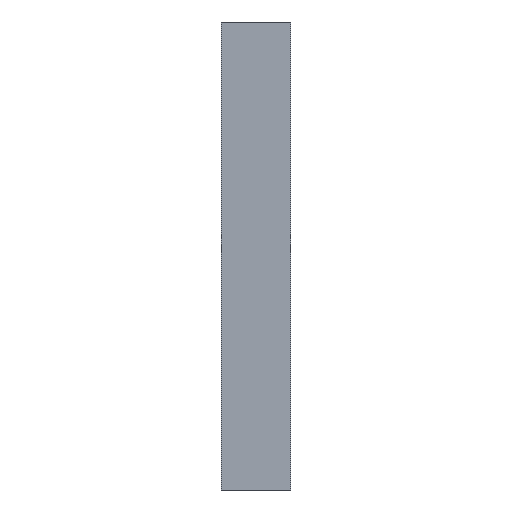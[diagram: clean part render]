
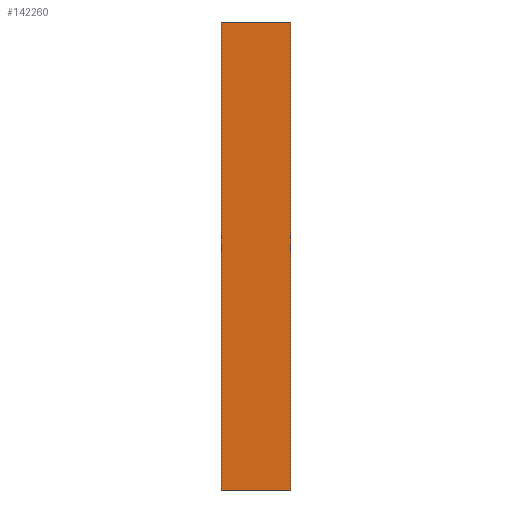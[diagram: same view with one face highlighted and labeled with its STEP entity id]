
A CAD part, front view. The second image highlights one B-rep face of the part: STEP entity #142260.
In plain terms, the highlighted planar face has unit normal (0, -1, 0).
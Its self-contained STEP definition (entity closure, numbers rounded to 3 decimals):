
#1=DIRECTION('',(1.,0.,0.));
#2=VECTOR('',#1,80.);
#3=CARTESIAN_POINT('',(-40.,101.9,69.93));
#4=LINE('',#3,#2);
#5=DIRECTION('',(0.,0.,-1.));
#6=VECTOR('',#5,540.);
#7=CARTESIAN_POINT('',(40.,101.9,69.93));
#8=LINE('',#7,#6);
#9=DIRECTION('',(-1.,0.,0.));
#10=VECTOR('',#9,80.);
#11=CARTESIAN_POINT('',(40.,101.9,-470.07));
#12=LINE('',#11,#10);
#13=DIRECTION('',(0.,0.,1.));
#14=VECTOR('',#13,540.);
#15=CARTESIAN_POINT('',(-40.,101.9,-470.07));
#16=LINE('',#15,#14);
#142107=CARTESIAN_POINT('',(-40.,101.9,69.93));
#142108=CARTESIAN_POINT('',(40.,101.9,69.93));
#142109=VERTEX_POINT('',#142107);
#142110=VERTEX_POINT('',#142108);
#142111=CARTESIAN_POINT('',(40.,101.9,-470.07));
#142112=VERTEX_POINT('',#142111);
#142113=CARTESIAN_POINT('',(-40.,101.9,-470.07));
#142114=VERTEX_POINT('',#142113);
#142245=CARTESIAN_POINT('',(0.,101.9,-0.07));
#142246=DIRECTION('',(0.,-1.,0.));
#142247=DIRECTION('',(0.,0.,-1.));
#142248=AXIS2_PLACEMENT_3D('',#142245,#142246,#142247);
#142249=PLANE('',#142248);
#142251=ORIENTED_EDGE('',*,*,#142250,.T.);
#142253=ORIENTED_EDGE('',*,*,#142252,.T.);
#142255=ORIENTED_EDGE('',*,*,#142254,.T.);
#142257=ORIENTED_EDGE('',*,*,#142256,.T.);
#142258=EDGE_LOOP('',(#142251,#142253,#142255,#142257));
#142259=FACE_OUTER_BOUND('',#142258,.F.);
#142260=ADVANCED_FACE('',(#142259),#142249,.T.);
#142250=EDGE_CURVE('',#142109,#142110,#4,.T.);
#142252=EDGE_CURVE('',#142110,#142112,#8,.T.);
#142254=EDGE_CURVE('',#142112,#142114,#12,.T.);
#142256=EDGE_CURVE('',#142114,#142109,#16,.T.);
